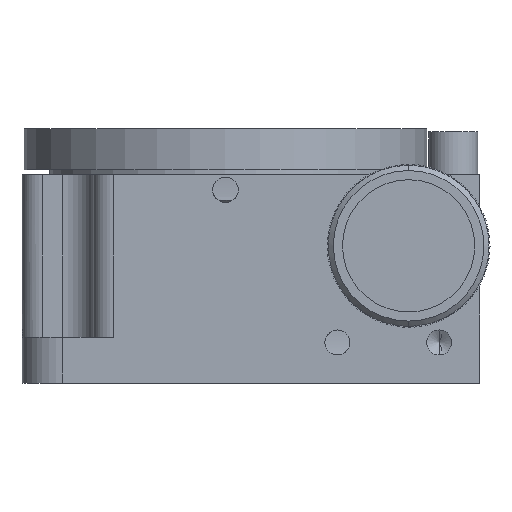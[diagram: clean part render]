
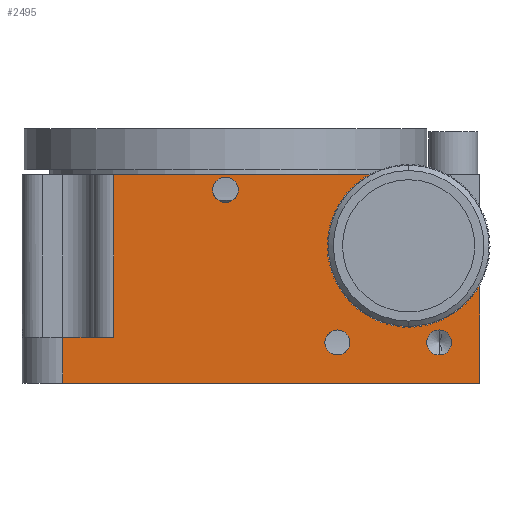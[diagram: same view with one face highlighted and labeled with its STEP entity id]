
A CAD part, front view. The second image highlights one B-rep face of the part: STEP entity #2495.
In plain terms, the highlighted planar face has unit normal (0, -1, 0).
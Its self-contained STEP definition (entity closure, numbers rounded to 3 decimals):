
#2231 = EDGE_CURVE ( 'NONE', #3395, #3406, #12519, .T. ) ;
#2242 = EDGE_CURVE ( 'NONE', #3394, #3440, #12564, .T. ) ;
#2247 = EDGE_CURVE ( 'NONE', #3416, #3456, #12553, .T. ) ;
#2254 = VERTEX_POINT ( 'NONE', #12600 ) ;
#2256 = EDGE_CURVE ( 'NONE', #2257, #2254, #12599, .T. ) ;
#2257 = VERTEX_POINT ( 'NONE', #12595 ) ;
#2265 = EDGE_CURVE ( 'NONE', #3457, #2257, #12589, .T. ) ;
#2306 = EDGE_CURVE ( 'NONE', #3403, #3409, #12659, .T. ) ;
#2348 = VERTEX_POINT ( 'NONE', #12726 ) ;
#2350 = EDGE_CURVE ( 'NONE', #2254, #2348, #12725, .T. ) ;
#2474 = EDGE_LOOP ( 'NONE', ( #2475, #2476 ) ) ;
#2475 = ORIENTED_EDGE ( 'NONE', *, *, #3422, .T. ) ;
#2476 = ORIENTED_EDGE ( 'NONE', *, *, #2306, .T. ) ;
#2477 = EDGE_LOOP ( 'NONE', ( #2478, #2479 ) ) ;
#2478 = ORIENTED_EDGE ( 'NONE', *, *, #3466, .T. ) ;
#2479 = ORIENTED_EDGE ( 'NONE', *, *, #2242, .T. ) ;
#2480 = EDGE_LOOP ( 'NONE', ( #2481, #2484, #2486, #2546, #2547, #2548, #2549, #2550 ) ) ;
#2481 = ORIENTED_EDGE ( 'NONE', *, *, #2482, .T. ) ;
#2482 = EDGE_CURVE ( 'NONE', #2490, #2483, #12894, .T. ) ;
#2483 = VERTEX_POINT ( 'NONE', #12890 ) ;
#2484 = ORIENTED_EDGE ( 'NONE', *, *, #2485, .F. ) ;
#2485 = EDGE_CURVE ( 'NONE', #3416, #2483, #12889, .T. ) ;
#2486 = ORIENTED_EDGE ( 'NONE', *, *, #2247, .T. ) ;
#2490 = VERTEX_POINT ( 'NONE', #12874 ) ;
#2492 = EDGE_CURVE ( 'NONE', #2348, #2490, #12873, .T. ) ;
#2495 = ADVANCED_FACE ( 'NONE', ( #12936, #12935, #12934, #12933 ), #12932, .T. ) ;
#2496 = EDGE_LOOP ( 'NONE', ( #2497, #2498 ) ) ;
#2497 = ORIENTED_EDGE ( 'NONE', *, *, #3459, .T. ) ;
#2498 = ORIENTED_EDGE ( 'NONE', *, *, #2231, .T. ) ;
#2546 = ORIENTED_EDGE ( 'NONE', *, *, #3455, .T. ) ;
#2547 = ORIENTED_EDGE ( 'NONE', *, *, #2265, .T. ) ;
#2548 = ORIENTED_EDGE ( 'NONE', *, *, #2256, .T. ) ;
#2549 = ORIENTED_EDGE ( 'NONE', *, *, #2350, .T. ) ;
#2550 = ORIENTED_EDGE ( 'NONE', *, *, #2492, .T. ) ;
#3394 = VERTEX_POINT ( 'NONE', #14606 ) ;
#3395 = VERTEX_POINT ( 'NONE', #14605 ) ;
#3403 = VERTEX_POINT ( 'NONE', #14646 ) ;
#3406 = VERTEX_POINT ( 'NONE', #14690 ) ;
#3409 = VERTEX_POINT ( 'NONE', #14684 ) ;
#3416 = VERTEX_POINT ( 'NONE', #14669 ) ;
#3422 = EDGE_CURVE ( 'NONE', #3409, #3403, #14664, .T. ) ;
#3440 = VERTEX_POINT ( 'NONE', #14792 ) ;
#3455 = EDGE_CURVE ( 'NONE', #3456, #3457, #14816, .T. ) ;
#3456 = VERTEX_POINT ( 'NONE', #14811 ) ;
#3457 = VERTEX_POINT ( 'NONE', #14810 ) ;
#3459 = EDGE_CURVE ( 'NONE', #3406, #3395, #14808, .T. ) ;
#3466 = EDGE_CURVE ( 'NONE', #3440, #3394, #14798, .T. ) ;
#12516 = DIRECTION ( 'NONE',  ( 1., 0., 0. ) ) ;
#12517 = DIRECTION ( 'NONE',  ( 0., 1., 0. ) ) ;
#12518 = AXIS2_PLACEMENT_3D ( 'NONE', #12525, #12517, #12516 ) ;
#12519 = CIRCLE ( 'NONE', #12518, 1.23 ) ;
#12525 = CARTESIAN_POINT ( 'NONE',  ( 41., 0., 4. ) ) ;
#12545 = DIRECTION ( 'NONE',  ( 1., 0., 0. ) ) ;
#12546 = DIRECTION ( 'NONE',  ( 0., 1., 0. ) ) ;
#12547 = CARTESIAN_POINT ( 'NONE',  ( 38., 0., 13.5 ) ) ;
#12548 = AXIS2_PLACEMENT_3D ( 'NONE', #12547, #12546, #12545 ) ;
#12553 = CIRCLE ( 'NONE', #12548, 7. ) ;
#12556 = DIRECTION ( 'NONE',  ( 1., 0., 0. ) ) ;
#12557 = DIRECTION ( 'NONE',  ( 0., 1., 0. ) ) ;
#12558 = CARTESIAN_POINT ( 'NONE',  ( 20., 0., 19. ) ) ;
#12559 = AXIS2_PLACEMENT_3D ( 'NONE', #12558, #12557, #12556 ) ;
#12564 = CIRCLE ( 'NONE', #12559, 1.25 ) ;
#12586 = DIRECTION ( 'NONE',  ( -1., 0., 0. ) ) ;
#12587 = VECTOR ( 'NONE', #12586, 1000. ) ;
#12588 = CARTESIAN_POINT ( 'NONE',  ( 45., 0., 20.5 ) ) ;
#12589 = LINE ( 'NONE', #12588, #12587 ) ;
#12595 = CARTESIAN_POINT ( 'NONE',  ( 9., 0., 20.5 ) ) ;
#12596 = DIRECTION ( 'NONE',  ( 0., 0., -1. ) ) ;
#12597 = VECTOR ( 'NONE', #12596, 1000. ) ;
#12598 = CARTESIAN_POINT ( 'NONE',  ( 9., 0., 0. ) ) ;
#12599 = LINE ( 'NONE', #12598, #12597 ) ;
#12600 = CARTESIAN_POINT ( 'NONE',  ( 9., 0., 4.5 ) ) ;
#12655 = DIRECTION ( 'NONE',  ( 1., 0., 0. ) ) ;
#12656 = DIRECTION ( 'NONE',  ( 0., 1., 0. ) ) ;
#12657 = CARTESIAN_POINT ( 'NONE',  ( 31., 0., 4. ) ) ;
#12658 = AXIS2_PLACEMENT_3D ( 'NONE', #12657, #12656, #12655 ) ;
#12659 = CIRCLE ( 'NONE', #12658, 1.229 ) ;
#12722 = DIRECTION ( 'NONE',  ( -1., 0., 0. ) ) ;
#12723 = VECTOR ( 'NONE', #12722, 1000. ) ;
#12724 = CARTESIAN_POINT ( 'NONE',  ( 45., 0., 4.5 ) ) ;
#12725 = LINE ( 'NONE', #12724, #12723 ) ;
#12726 = CARTESIAN_POINT ( 'NONE',  ( 4., 0., 4.5 ) ) ;
#12870 = DIRECTION ( 'NONE',  ( 0., 0., -1. ) ) ;
#12871 = VECTOR ( 'NONE', #12870, 1000. ) ;
#12872 = CARTESIAN_POINT ( 'NONE',  ( 4., 0., 0. ) ) ;
#12873 = LINE ( 'NONE', #12872, #12871 ) ;
#12874 = CARTESIAN_POINT ( 'NONE',  ( 4., 0., 0. ) ) ;
#12886 = DIRECTION ( 'NONE',  ( 0., 0., -1. ) ) ;
#12887 = VECTOR ( 'NONE', #12886, 1000. ) ;
#12888 = CARTESIAN_POINT ( 'NONE',  ( 45., 0., 0. ) ) ;
#12889 = LINE ( 'NONE', #12888, #12887 ) ;
#12890 = CARTESIAN_POINT ( 'NONE',  ( 45., 0., 0. ) ) ;
#12891 = DIRECTION ( 'NONE',  ( 1., 0., 0. ) ) ;
#12892 = VECTOR ( 'NONE', #12891, 1000. ) ;
#12893 = CARTESIAN_POINT ( 'NONE',  ( 22.5, 0., 0. ) ) ;
#12894 = LINE ( 'NONE', #12893, #12892 ) ;
#12928 = DIRECTION ( 'NONE',  ( 1., 0., 0. ) ) ;
#12929 = DIRECTION ( 'NONE',  ( 0., -1., 0. ) ) ;
#12930 = CARTESIAN_POINT ( 'NONE',  ( 45., 0., 0. ) ) ;
#12931 = AXIS2_PLACEMENT_3D ( 'NONE', #12930, #12929, #12928 ) ;
#12932 = PLANE ( 'NONE',  #12931 ) ;
#12933 = FACE_OUTER_BOUND ( 'NONE', #2480, .T. ) ;
#12934 = FACE_BOUND ( 'NONE', #2477, .T. ) ;
#12935 = FACE_BOUND ( 'NONE', #2474, .T. ) ;
#12936 = FACE_BOUND ( 'NONE', #2496, .T. ) ;
#14605 = CARTESIAN_POINT ( 'NONE',  ( 39.771, 0., 4. ) ) ;
#14606 = CARTESIAN_POINT ( 'NONE',  ( 18.75, 0., 19. ) ) ;
#14646 = CARTESIAN_POINT ( 'NONE',  ( 29.771, 0., 4. ) ) ;
#14664 = CIRCLE ( 'NONE', #14724, 1.229 ) ;
#14669 = CARTESIAN_POINT ( 'NONE',  ( 45., 0., 13.5 ) ) ;
#14684 = CARTESIAN_POINT ( 'NONE',  ( 32.23, 0., 4. ) ) ;
#14690 = CARTESIAN_POINT ( 'NONE',  ( 42.23, 0., 4. ) ) ;
#14721 = DIRECTION ( 'NONE',  ( 1., 0., 0. ) ) ;
#14722 = DIRECTION ( 'NONE',  ( 0., 1., 0. ) ) ;
#14723 = CARTESIAN_POINT ( 'NONE',  ( 31., 0., 4. ) ) ;
#14724 = AXIS2_PLACEMENT_3D ( 'NONE', #14723, #14722, #14721 ) ;
#14792 = CARTESIAN_POINT ( 'NONE',  ( 21.25, 0., 19. ) ) ;
#14794 = DIRECTION ( 'NONE',  ( 1., 0., 0. ) ) ;
#14795 = DIRECTION ( 'NONE',  ( 0., 1., 0. ) ) ;
#14796 = CARTESIAN_POINT ( 'NONE',  ( 20., 0., 19. ) ) ;
#14797 = AXIS2_PLACEMENT_3D ( 'NONE', #14796, #14795, #14794 ) ;
#14798 = CIRCLE ( 'NONE', #14797, 1.25 ) ;
#14804 = DIRECTION ( 'NONE',  ( 1., 0., 0. ) ) ;
#14805 = DIRECTION ( 'NONE',  ( 0., 1., 0. ) ) ;
#14806 = CARTESIAN_POINT ( 'NONE',  ( 41., 0., 4. ) ) ;
#14807 = AXIS2_PLACEMENT_3D ( 'NONE', #14806, #14805, #14804 ) ;
#14808 = CIRCLE ( 'NONE', #14807, 1.23 ) ;
#14810 = CARTESIAN_POINT ( 'NONE',  ( 38., 0., 20.5 ) ) ;
#14811 = CARTESIAN_POINT ( 'NONE',  ( 31., 0., 13.5 ) ) ;
#14812 = DIRECTION ( 'NONE',  ( 1., 0., 0. ) ) ;
#14813 = DIRECTION ( 'NONE',  ( 0., 1., 0. ) ) ;
#14814 = CARTESIAN_POINT ( 'NONE',  ( 38., 0., 13.5 ) ) ;
#14815 = AXIS2_PLACEMENT_3D ( 'NONE', #14814, #14813, #14812 ) ;
#14816 = CIRCLE ( 'NONE', #14815, 7. ) ;
